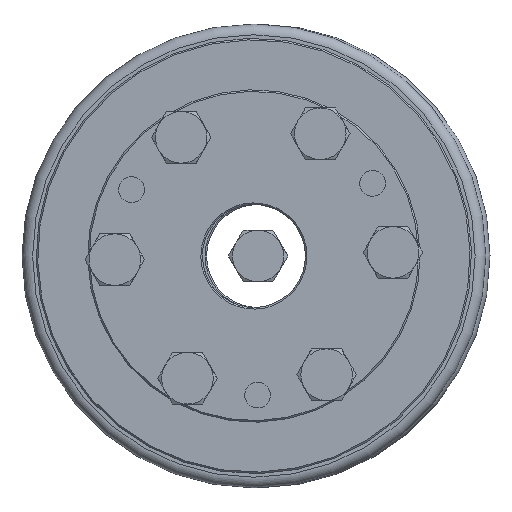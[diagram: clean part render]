
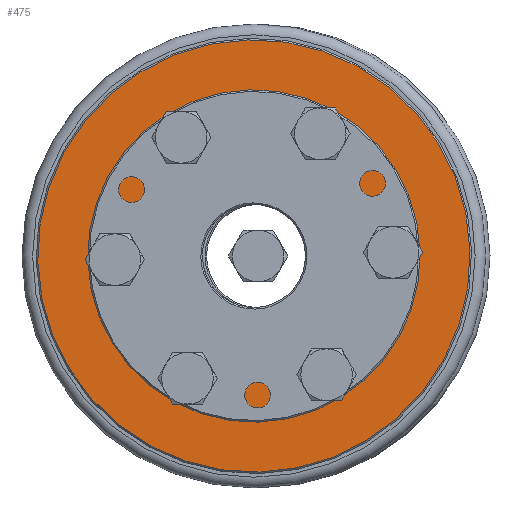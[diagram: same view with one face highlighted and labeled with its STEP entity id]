
A CAD part, left-side view. The second image highlights one B-rep face of the part: STEP entity #475.
In plain terms, the highlighted planar face has unit normal (-1, 0, 0) as drawn and (1, 0, 0) by its records, which use the part's own axes.
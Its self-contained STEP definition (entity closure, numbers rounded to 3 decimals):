
#475 = ADVANCED_FACE( 'NONE', ( #697, #698, #699, #700, #701, #702, #703, #704 ), #705, .F. );
#697 = FACE_OUTER_BOUND( '', #971, .T. );
#698 = FACE_BOUND( '', #972, .T. );
#699 = FACE_BOUND( '', #973, .T. );
#700 = FACE_BOUND( '', #974, .T. );
#701 = FACE_BOUND( '', #975, .T. );
#702 = FACE_BOUND( '', #976, .T. );
#703 = FACE_BOUND( '', #977, .T. );
#704 = FACE_BOUND( '', #978, .T. );
#705 = PLANE( '', #979 );
#971 = EDGE_LOOP( '', ( #1277 ) );
#972 = EDGE_LOOP( '', ( #1278 ) );
#973 = EDGE_LOOP( '', ( #1279 ) );
#974 = EDGE_LOOP( '', ( #1280 ) );
#975 = EDGE_LOOP( '', ( #1281 ) );
#976 = EDGE_LOOP( '', ( #1282 ) );
#977 = EDGE_LOOP( '', ( #1283 ) );
#978 = EDGE_LOOP( '', ( #1284 ) );
#979 = AXIS2_PLACEMENT_3D( '', #1285, #1286, #1287 );
#1277 = ORIENTED_EDGE( '', *, *, #1774, .T. );
#1278 = ORIENTED_EDGE( '', *, *, #1775, .T. );
#1279 = ORIENTED_EDGE( '', *, *, #1776, .F. );
#1280 = ORIENTED_EDGE( '', *, *, #1777, .F. );
#1281 = ORIENTED_EDGE( '', *, *, #1778, .F. );
#1282 = ORIENTED_EDGE( '', *, *, #1779, .F. );
#1283 = ORIENTED_EDGE( '', *, *, #1772, .F. );
#1284 = ORIENTED_EDGE( '', *, *, #1780, .F. );
#1285 = CARTESIAN_POINT( '', ( 20., 42.25, 0. ) );
#1286 = DIRECTION( '', ( -1., 0., 0. ) );
#1287 = DIRECTION( '', ( 0., 0., 1. ) );
#1772 = EDGE_CURVE( 'NONE', #1959, #1959, #1960, .T. );
#1774 = EDGE_CURVE( 'NONE', #1963, #1963, #1964, .T. );
#1775 = EDGE_CURVE( 'NONE', #1965, #1965, #1966, .T. );
#1776 = EDGE_CURVE( 'NONE', #1967, #1967, #1968, .T. );
#1777 = EDGE_CURVE( 'NONE', #1969, #1969, #1970, .T. );
#1778 = EDGE_CURVE( 'NONE', #1971, #1971, #1972, .T. );
#1779 = EDGE_CURVE( 'NONE', #1973, #1973, #1974, .T. );
#1780 = EDGE_CURVE( 'NONE', #1975, #1975, #1976, .T. );
#1959 = VERTEX_POINT( '', #2141 );
#1960 = CIRCLE( '', #2142, 3. );
#1963 = VERTEX_POINT( '', #2145 );
#1964 = CIRCLE( '', #2146, 41.95 );
#1965 = VERTEX_POINT( '', #2147 );
#1966 = CIRCLE( '', #2148, 23.558 );
#1967 = VERTEX_POINT( '', #2149 );
#1968 = CIRCLE( '', #2150, 3. );
#1969 = VERTEX_POINT( '', #2151 );
#1970 = CIRCLE( '', #2152, 3. );
#1971 = VERTEX_POINT( '', #2153 );
#1972 = CIRCLE( '', #2154, 3. );
#1973 = VERTEX_POINT( '', #2155 );
#1974 = CIRCLE( '', #2156, 3. );
#1975 = VERTEX_POINT( '', #2157 );
#1976 = CIRCLE( '', #2158, 3. );
#2141 = CARTESIAN_POINT( '', ( 20., -27., -3. ) );
#2142 = AXIS2_PLACEMENT_3D( '', #2371, #2372, #2373 );
#2145 = CARTESIAN_POINT( '', ( 20., 0., 41.95 ) );
#2146 = AXIS2_PLACEMENT_3D( '', #2377, #2378, #2379 );
#2147 = CARTESIAN_POINT( '', ( 20., 0., 23.558 ) );
#2148 = AXIS2_PLACEMENT_3D( '', #2380, #2381, #2382 );
#2149 = CARTESIAN_POINT( '', ( 20., -13.5, 20.383 ) );
#2150 = AXIS2_PLACEMENT_3D( '', #2383, #2384, #2385 );
#2151 = CARTESIAN_POINT( '', ( 20., 27., -3. ) );
#2152 = AXIS2_PLACEMENT_3D( '', #2386, #2387, #2388 );
#2153 = CARTESIAN_POINT( '', ( 20., 13.5, -26.383 ) );
#2154 = AXIS2_PLACEMENT_3D( '', #2389, #2390, #2391 );
#2155 = CARTESIAN_POINT( '', ( 20., -13.5, -26.383 ) );
#2156 = AXIS2_PLACEMENT_3D( '', #2392, #2393, #2394 );
#2157 = CARTESIAN_POINT( '', ( 20., 13.5, 20.383 ) );
#2158 = AXIS2_PLACEMENT_3D( '', #2395, #2396, #2397 );
#2371 = CARTESIAN_POINT( '', ( 20., -27., 0. ) );
#2372 = DIRECTION( '', ( 1., 0., 0. ) );
#2373 = DIRECTION( '', ( 0., 0., -1. ) );
#2377 = CARTESIAN_POINT( '', ( 20., 0., 0. ) );
#2378 = DIRECTION( '', ( 1., 0., 0. ) );
#2379 = DIRECTION( '', ( 0., 0., 1. ) );
#2380 = CARTESIAN_POINT( '', ( 20., 0., 0. ) );
#2381 = DIRECTION( '', ( -1., 0., 0. ) );
#2382 = DIRECTION( '', ( 0., 0., 1. ) );
#2383 = CARTESIAN_POINT( '', ( 20., -13.5, 23.383 ) );
#2384 = DIRECTION( '', ( 1., 0., 0. ) );
#2385 = DIRECTION( '', ( 0., 0., -1. ) );
#2386 = CARTESIAN_POINT( '', ( 20., 27., 0. ) );
#2387 = DIRECTION( '', ( 1., 0., 0. ) );
#2388 = DIRECTION( '', ( 0., 0., -1. ) );
#2389 = CARTESIAN_POINT( '', ( 20., 13.5, -23.383 ) );
#2390 = DIRECTION( '', ( 1., 0., 0. ) );
#2391 = DIRECTION( '', ( 0., 0., -1. ) );
#2392 = CARTESIAN_POINT( '', ( 20., -13.5, -23.383 ) );
#2393 = DIRECTION( '', ( 1., 0., 0. ) );
#2394 = DIRECTION( '', ( 0., 0., -1. ) );
#2395 = CARTESIAN_POINT( '', ( 20., 13.5, 23.383 ) );
#2396 = DIRECTION( '', ( 1., 0., 0. ) );
#2397 = DIRECTION( '', ( 0., 0., -1. ) );
